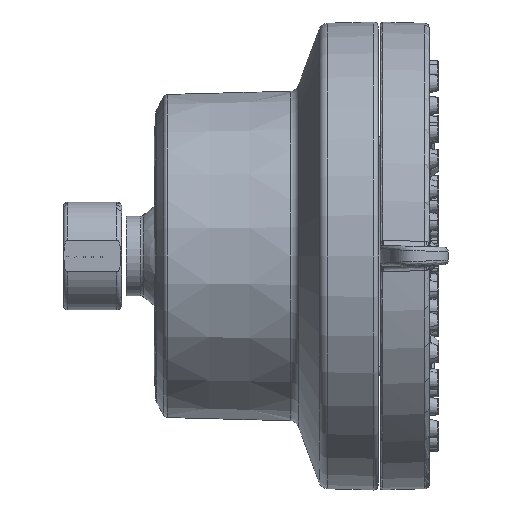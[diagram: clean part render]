
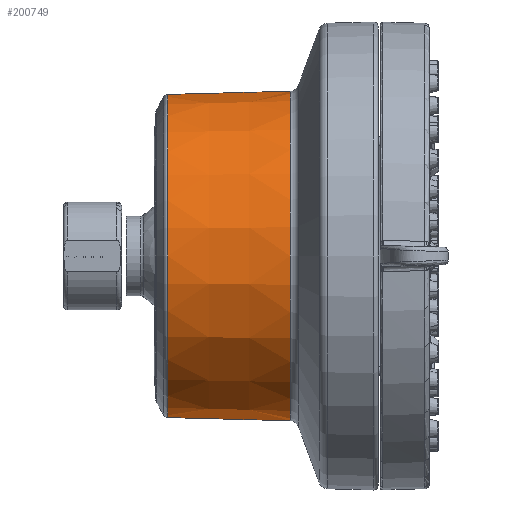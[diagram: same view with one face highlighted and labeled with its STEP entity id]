
A CAD part, left-side view. The second image highlights one B-rep face of the part: STEP entity #200749.
In plain terms, the highlighted conical face has half-angle 1.5 degrees and reference radius 34.86 mm.
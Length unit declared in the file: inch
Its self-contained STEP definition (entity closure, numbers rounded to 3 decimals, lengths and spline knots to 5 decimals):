
#9284 = ORIENTED_EDGE ( 'NONE', *, *, #166472, .T. ) ;
#17223 = CARTESIAN_POINT ( 'NONE',  ( 0., 1.76809, 1.35897 ) ) ;
#23092 = ORIENTED_EDGE ( 'NONE', *, *, #44937, .T. ) ;
#30690 = CONICAL_SURFACE ( 'NONE', #174452, 1.37243, 0.026 ) ;
#32609 = DIRECTION ( 'NONE',  ( 0., -1., 0.026 ) ) ;
#35771 = ORIENTED_EDGE ( 'NONE', *, *, #166272, .F. ) ;
#39516 = DIRECTION ( 'NONE',  ( 0., -1., 0. ) ) ;
#44937 = EDGE_CURVE ( 'NONE', #95847, #157724, #192469, .T. ) ;
#48497 = DIRECTION ( 'NONE',  ( 0., 1., 0. ) ) ;
#52273 = CARTESIAN_POINT ( 'NONE',  ( 0., 1.76809, -1.35897 ) ) ;
#62826 = CARTESIAN_POINT ( 'NONE',  ( 0., 0.74004, 0. ) ) ;
#80649 = VECTOR ( 'NONE', #114669, 39.37008 ) ;
#91198 = VECTOR ( 'NONE', #32609, 39.37008 ) ;
#94539 = AXIS2_PLACEMENT_3D ( 'NONE', #154955, #198219, #155952 ) ;
#95847 = VERTEX_POINT ( 'NONE', #136466 ) ;
#98626 = ORIENTED_EDGE ( 'NONE', *, *, #165216, .T. ) ;
#114669 = DIRECTION ( 'NONE',  ( 0., -1., -0.026 ) ) ;
#123920 = AXIS2_PLACEMENT_3D ( 'NONE', #62826, #48497, #202043 ) ;
#136466 = CARTESIAN_POINT ( 'NONE',  ( 0., 1.76809, -1.35897 ) ) ;
#146098 = CARTESIAN_POINT ( 'NONE',  ( 0., 0.74004, 1.38589 ) ) ;
#154955 = CARTESIAN_POINT ( 'NONE',  ( 0., 1.76809, 0. ) ) ;
#155952 = DIRECTION ( 'NONE',  ( 0., 0., 1. ) ) ;
#156679 = CIRCLE ( 'NONE', #123920, 1.38589 ) ;
#157455 = LINE ( 'NONE', #17223, #91198 ) ;
#157724 = VERTEX_POINT ( 'NONE', #167156 ) ;
#163094 = CIRCLE ( 'NONE', #94539, 1.35897 ) ;
#165216 = EDGE_CURVE ( 'NONE', #157724, #192004, #156679, .T. ) ;
#166272 = EDGE_CURVE ( 'NONE', #166414, #192004, #157455, .T. ) ;
#166414 = VERTEX_POINT ( 'NONE', #191178 ) ;
#166472 = EDGE_CURVE ( 'NONE', #166414, #95847, #163094, .T. ) ;
#167156 = CARTESIAN_POINT ( 'NONE',  ( 0., 0.74004, -1.38589 ) ) ;
#174452 = AXIS2_PLACEMENT_3D ( 'NONE', #198095, #39516, #197086 ) ;
#182742 = FACE_OUTER_BOUND ( 'NONE', #187929, .T. ) ;
#187929 = EDGE_LOOP ( 'NONE', ( #23092, #98626, #35771, #9284 ) ) ;
#191178 = CARTESIAN_POINT ( 'NONE',  ( 0., 1.76809, 1.35897 ) ) ;
#192004 = VERTEX_POINT ( 'NONE', #146098 ) ;
#192469 = LINE ( 'NONE', #52273, #80649 ) ;
#197086 = DIRECTION ( 'NONE',  ( 0., 0., 1. ) ) ;
#198095 = CARTESIAN_POINT ( 'NONE',  ( 0., 1.25407, 0. ) ) ;
#198219 = DIRECTION ( 'NONE',  ( 0., -1., 0. ) ) ;
#200749 = ADVANCED_FACE ( 'NONE', ( #182742 ), #30690, .T. ) ;
#202043 = DIRECTION ( 'NONE',  ( 0., 0., -1. ) ) ;
